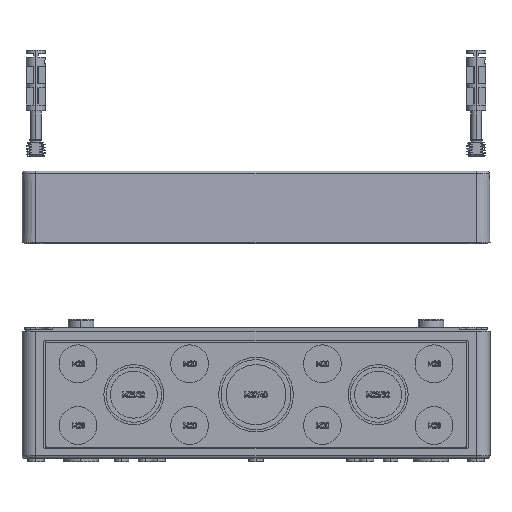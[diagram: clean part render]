
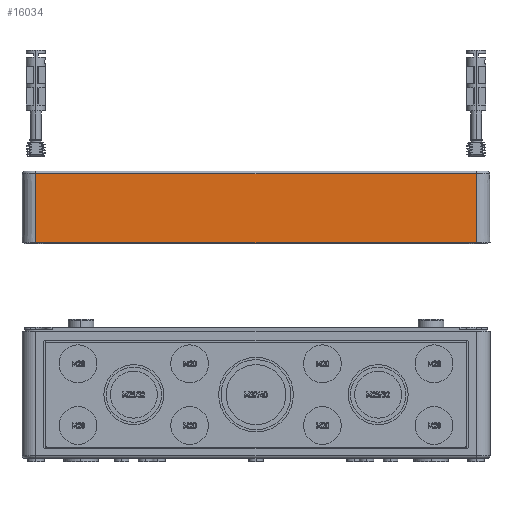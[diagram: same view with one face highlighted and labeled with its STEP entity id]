
A CAD part, left-side view. The second image highlights one B-rep face of the part: STEP entity #16034.
In plain terms, the highlighted planar face has unit normal (-1, 0, 0.004).
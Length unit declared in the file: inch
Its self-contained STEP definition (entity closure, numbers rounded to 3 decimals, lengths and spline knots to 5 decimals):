
#164 = CARTESIAN_POINT ( 'NONE',  ( -3.53815, 5.90551, 1.47658 ) ) ;
#6453 = VECTOR ( 'NONE', #76058, 39.37008 ) ;
#8303 = CARTESIAN_POINT ( 'NONE',  ( -3.54331, -4.70472, 0. ) ) ;
#9496 = ORIENTED_EDGE ( 'NONE', *, *, #22070, .T. ) ;
#14095 = LINE ( 'NONE', #55999, #119116 ) ;
#14530 = EDGE_CURVE ( 'NONE', #132851, #87620, #32528, .T. ) ;
#15472 = EDGE_CURVE ( 'NONE', #20378, #132851, #107496, .T. ) ;
#16034 = ADVANCED_FACE ( 'NONE', ( #61853 ), #135492, .T. ) ;
#19996 = ORIENTED_EDGE ( 'NONE', *, *, #131817, .T. ) ;
#20378 = VERTEX_POINT ( 'NONE', #152102 ) ;
#22070 = EDGE_CURVE ( 'NONE', #20378, #150750, #141599, .T. ) ;
#32528 = LINE ( 'NONE', #8303, #129591 ) ;
#55999 = CARTESIAN_POINT ( 'NONE',  ( -3.54331, 5., 0. ) ) ;
#59717 = CARTESIAN_POINT ( 'NONE',  ( -3.54331, 5., 0. ) ) ;
#61853 = FACE_OUTER_BOUND ( 'NONE', #143422, .T. ) ;
#70320 = VECTOR ( 'NONE', #109436, 39.37008 ) ;
#71330 = CARTESIAN_POINT ( 'NONE',  ( -3.54331, 4.70472, 0. ) ) ;
#72424 = DIRECTION ( 'NONE',  ( 0.003, 0., 1. ) ) ;
#73459 = AXIS2_PLACEMENT_3D ( 'NONE', #59717, #148333, #72424 ) ;
#76058 = DIRECTION ( 'NONE',  ( 0., -1., 0. ) ) ;
#76845 = ORIENTED_EDGE ( 'NONE', *, *, #14530, .F. ) ;
#85066 = CARTESIAN_POINT ( 'NONE',  ( -3.54331, -4.70472, 0. ) ) ;
#87620 = VERTEX_POINT ( 'NONE', #85066 ) ;
#91722 = ORIENTED_EDGE ( 'NONE', *, *, #15472, .F. ) ;
#106853 = DIRECTION ( 'NONE',  ( 0., -1., 0. ) ) ;
#107496 = LINE ( 'NONE', #164, #6453 ) ;
#109436 = DIRECTION ( 'NONE',  ( -0.003, 0., -1. ) ) ;
#119116 = VECTOR ( 'NONE', #106853, 39.37008 ) ;
#129591 = VECTOR ( 'NONE', #147392, 39.37008 ) ;
#131817 = EDGE_CURVE ( 'NONE', #150750, #87620, #14095, .T. ) ;
#132851 = VERTEX_POINT ( 'NONE', #143788 ) ;
#135333 = CARTESIAN_POINT ( 'NONE',  ( -3.54331, 4.70472, 0. ) ) ;
#135492 = PLANE ( 'NONE',  #73459 ) ;
#141599 = LINE ( 'NONE', #71330, #70320 ) ;
#143422 = EDGE_LOOP ( 'NONE', ( #19996, #76845, #91722, #9496 ) ) ;
#143788 = CARTESIAN_POINT ( 'NONE',  ( -3.53815, -4.70472, 1.47658 ) ) ;
#147392 = DIRECTION ( 'NONE',  ( -0.003, 0., -1. ) ) ;
#148333 = DIRECTION ( 'NONE',  ( -1., 0., 0.003 ) ) ;
#150750 = VERTEX_POINT ( 'NONE', #135333 ) ;
#152102 = CARTESIAN_POINT ( 'NONE',  ( -3.53815, 4.70472, 1.47658 ) ) ;
